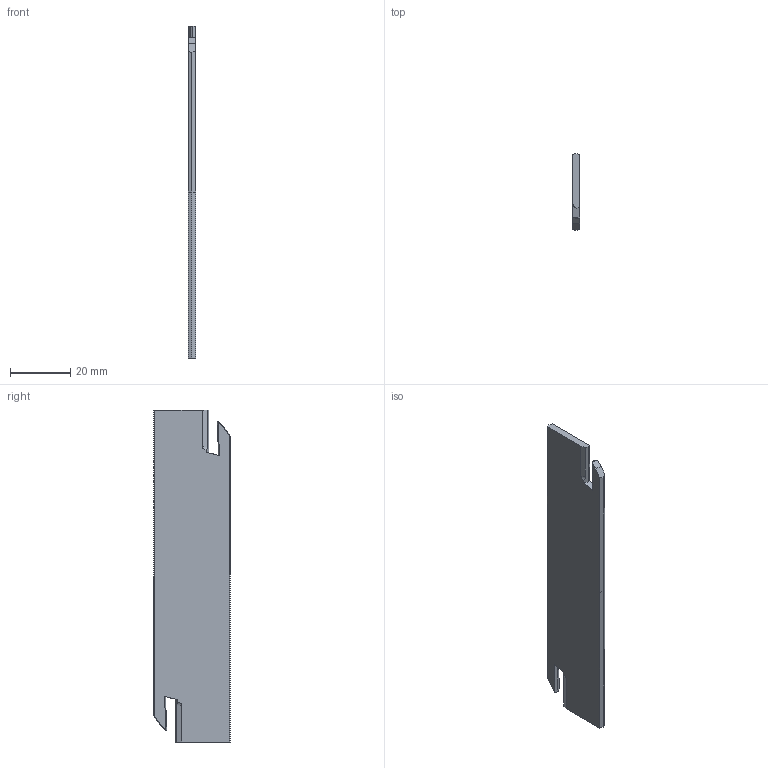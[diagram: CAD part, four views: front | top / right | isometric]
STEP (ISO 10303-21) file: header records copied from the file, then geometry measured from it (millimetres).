
FILE_DESCRIPTION(('CATIA V5 STEP','CAx-IF Rec.Pracs.--- Model Styling and Organization---1.2---2011-12-15'),'2;1');
FILE_NAME('\\nas01\drv1\utils\eitdev\rte\eit\transmagicconvert\db\out\635737545704423075\2301405D.stp','2015-07-29T05:16:15+00:00',('none'),('none'),'CATIA Version 5 Release 21 SP 5 (IN-10)','CATIA V5 STEP AP214','none');
FILE_SCHEMA(('AUTOMOTIVE_DESIGN { 1 0 10303 214 1 1 1 1 }'));
Length unit declared in the file: millimetre
Products named in the file (1): HGFH 26-3 
Bounding box: 2.38 x 25.36 x 110 mm (x, y, z)
Volume: 6188 mm3; surface area: 5876.6 mm2
Topology: 1 solids, 1 shells, 38 faces, 106 edges, 70 vertices
Faces by surface type: plane 32, cylinder 6
Entity records: 1292 total; most frequent: CARTESIAN_POINT 325, ORIENTED_EDGE 212, DIRECTION 166, EDGE_CURVE 106, VECTOR 86, LINE 86, VERTEX_POINT 70, AXIS2_PLACEMENT_3D 41
